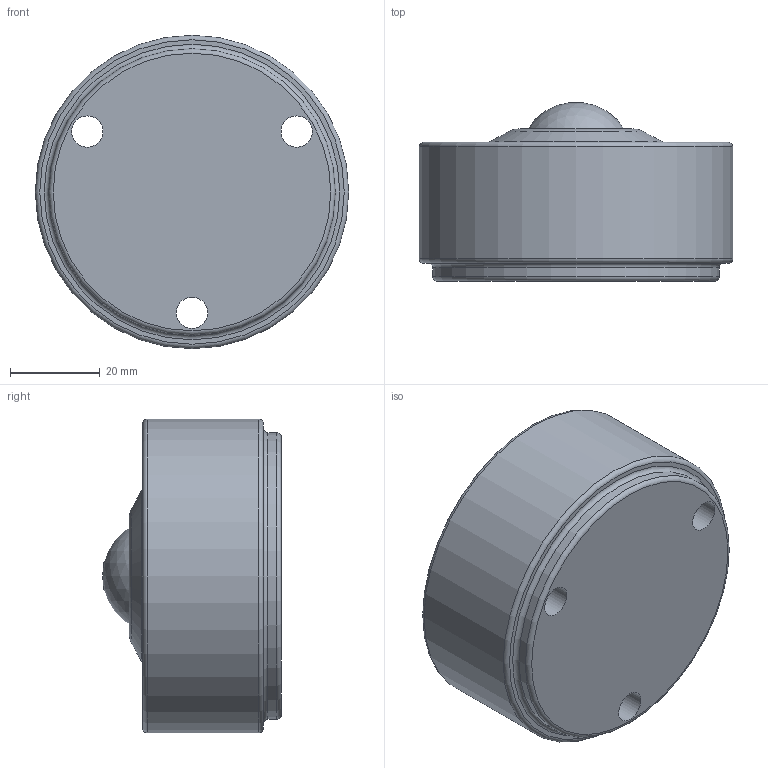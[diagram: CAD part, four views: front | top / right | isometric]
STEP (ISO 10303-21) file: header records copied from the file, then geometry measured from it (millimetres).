
FILE_DESCRIPTION(/* description */ (''),/* implementation_level */ '2;1');
FILE_NAME(/* name */ 'Z:\35-j-ito\製品モデル\IS\IS-25\客先用モデル\IS-25.stp',/* time_stamp */ '2023-03-02T17:22:27+09:00',/* author */ ('j-ito'),/* organization */ (''),/* preprocessor_version */ 'ST-DEVELOPER v19',/* originating_system */ 'Autodesk Inventor 2023',/* authorisation */ '');
FILE_SCHEMA (('AUTOMOTIVE_DESIGN { 1 0 10303 214 3 1 1 }'));
Length unit declared in the file: millimetre
Products named in the file (1): IS-25
Bounding box: 70 x 39.91 x 70 mm (x, y, z)
Volume: 116341.4 mm3; surface area: 18569.2 mm2
Topology: 4 solids, 4 shells, 99 faces, 234 edges, 152 vertices
Faces by surface type: plane 52, cylinder 28, cone 12, torus 6, sphere 1
Full cylindrical faces by diameter (mm): 5 x3, 5.917 x3, 7 x3, 10 x3, 64 x1, 66 x1, 66.35 x1, 70 x1
Entity records: 2892 total; most frequent: DIRECTION 514, CARTESIAN_POINT 483, ORIENTED_EDGE 462, EDGE_CURVE 231, AXIS2_PLACEMENT_3D 183, VERTEX_POINT 152, LINE 148, VECTOR 148
